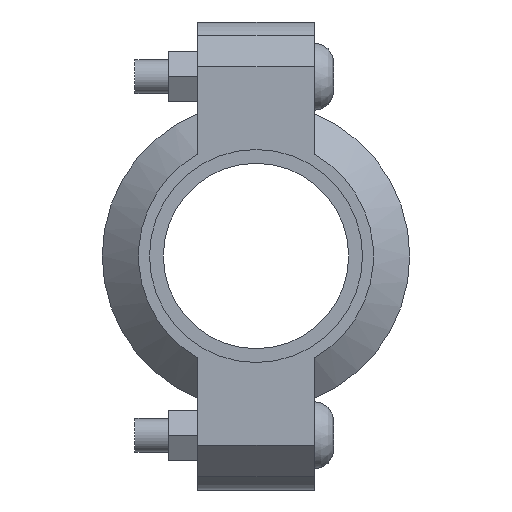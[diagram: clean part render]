
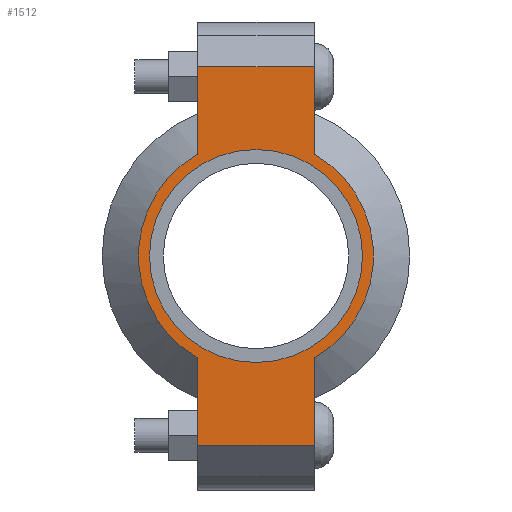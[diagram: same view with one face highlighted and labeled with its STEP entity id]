
A CAD part, left-side view. The second image highlights one B-rep face of the part: STEP entity #1512.
In plain terms, the highlighted planar face has unit normal (-1, 0, 0) as drawn and (0, 0, 1) by its records, which use the part's own axes.
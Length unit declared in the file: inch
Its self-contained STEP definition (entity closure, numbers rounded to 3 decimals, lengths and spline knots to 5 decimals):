
#192=LINE('',#2605,#283);
#200=LINE('',#2641,#291);
#207=LINE('',#2662,#298);
#216=LINE('',#2694,#307);
#217=LINE('',#2698,#308);
#218=LINE('',#2700,#309);
#283=VECTOR('',#2099,0.3937);
#291=VECTOR('',#2115,0.3937);
#298=VECTOR('',#2134,0.3937);
#307=VECTOR('',#2159,0.3937);
#308=VECTOR('',#2164,0.3937);
#309=VECTOR('',#2165,0.3937);
#361=FACE_BOUND('',#521,.T.);
#425=FACE_OUTER_BOUND('',#520,.T.);
#520=EDGE_LOOP('',(#1247,#1248,#1249,#1250,#1251,#1252,#1253,#1254));
#521=EDGE_LOOP('',(#1255));
#618=CIRCLE('',#1755,1.31);
#619=CIRCLE('',#1756,1.31);
#620=CIRCLE('',#1757,1.1875);
#723=VERTEX_POINT('',#2602);
#724=VERTEX_POINT('',#2604);
#735=VERTEX_POINT('',#2636);
#736=VERTEX_POINT('',#2640);
#743=VERTEX_POINT('',#2659);
#744=VERTEX_POINT('',#2661);
#754=VERTEX_POINT('',#2697);
#755=VERTEX_POINT('',#2699);
#756=VERTEX_POINT('',#2702);
#887=EDGE_CURVE('',#724,#723,#192,.T.);
#901=EDGE_CURVE('',#736,#735,#200,.T.);
#911=EDGE_CURVE('',#744,#743,#207,.T.);
#926=EDGE_CURVE('',#736,#723,#216,.T.);
#927=EDGE_CURVE('',#735,#744,#618,.T.);
#928=EDGE_CURVE('',#754,#743,#217,.T.);
#929=EDGE_CURVE('',#754,#755,#218,.T.);
#930=EDGE_CURVE('',#755,#724,#619,.T.);
#931=EDGE_CURVE('',#756,#756,#620,.T.);
#1247=ORIENTED_EDGE('',*,*,#926,.F.);
#1248=ORIENTED_EDGE('',*,*,#901,.T.);
#1249=ORIENTED_EDGE('',*,*,#927,.T.);
#1250=ORIENTED_EDGE('',*,*,#911,.T.);
#1251=ORIENTED_EDGE('',*,*,#928,.F.);
#1252=ORIENTED_EDGE('',*,*,#929,.T.);
#1253=ORIENTED_EDGE('',*,*,#930,.T.);
#1254=ORIENTED_EDGE('',*,*,#887,.T.);
#1255=ORIENTED_EDGE('',*,*,#931,.T.);
#1366=PLANE('',#1754);
#1512=ADVANCED_FACE('',(#425,#361),#1366,.T.);
#1754=AXIS2_PLACEMENT_3D('',#2695,#2160,#2161);
#1755=AXIS2_PLACEMENT_3D('',#2696,#2162,#2163);
#1756=AXIS2_PLACEMENT_3D('',#2701,#2166,#2167);
#1757=AXIS2_PLACEMENT_3D('',#2703,#2168,#2169);
#2099=DIRECTION('',(-1.,0.,0.));
#2115=DIRECTION('',(1.,0.,0.));
#2134=DIRECTION('',(1.,0.,0.));
#2159=DIRECTION('',(0.,1.,0.));
#2160=DIRECTION('center_axis',(0.,0.,1.));
#2161=DIRECTION('ref_axis',(1.,0.,0.));
#2162=DIRECTION('center_axis',(0.,0.,1.));
#2163=DIRECTION('ref_axis',(-1.,0.,0.));
#2164=DIRECTION('',(0.,-1.,0.));
#2165=DIRECTION('',(-1.,0.,0.));
#2166=DIRECTION('center_axis',(0.,0.,1.));
#2167=DIRECTION('ref_axis',(-1.,0.,0.));
#2168=DIRECTION('center_axis',(0.,0.,-1.));
#2169=DIRECTION('ref_axis',(-1.,0.,0.));
#2602=CARTESIAN_POINT('',(-2.11,0.65,0.94));
#2604=CARTESIAN_POINT('',(-1.13737,0.65,0.94));
#2605=CARTESIAN_POINT('',(-2.61,0.65,0.94));
#2636=CARTESIAN_POINT('',(-1.13737,-0.65,0.94));
#2640=CARTESIAN_POINT('',(-2.11,-0.65,0.94));
#2641=CARTESIAN_POINT('',(2.61,-0.65,0.94));
#2659=CARTESIAN_POINT('',(2.11,-0.65,0.94));
#2661=CARTESIAN_POINT('',(1.13737,-0.65,0.94));
#2662=CARTESIAN_POINT('',(2.61,-0.65,0.94));
#2694=CARTESIAN_POINT('',(-2.11,0.325,0.94));
#2695=CARTESIAN_POINT('Origin',(0.,0.,0.94));
#2696=CARTESIAN_POINT('Origin',(0.,0.,0.94));
#2697=CARTESIAN_POINT('',(2.11,0.65,0.94));
#2698=CARTESIAN_POINT('',(2.11,-0.325,0.94));
#2699=CARTESIAN_POINT('',(1.13737,0.65,0.94));
#2700=CARTESIAN_POINT('',(-2.61,0.65,0.94));
#2701=CARTESIAN_POINT('Origin',(0.,0.,0.94));
#2702=CARTESIAN_POINT('',(1.1875,0.,0.94));
#2703=CARTESIAN_POINT('Origin',(0.,0.,0.94));
